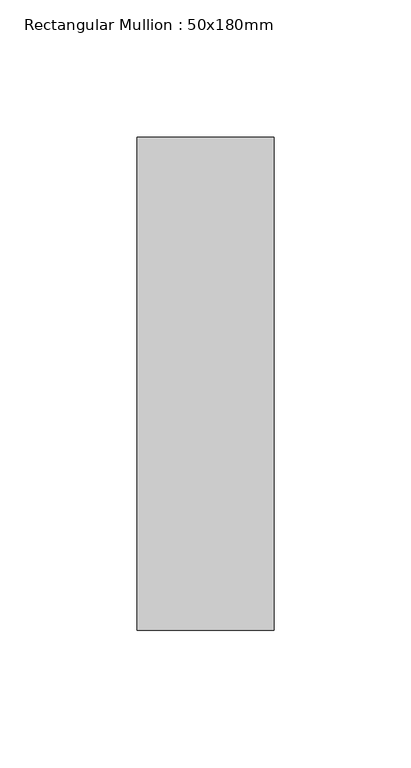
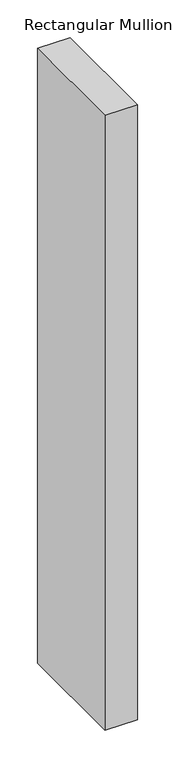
"""IFC4 building model written with IfcOpenShell, lengths in millimetres: member geometry, Rectangular Mullion : 50x180mm."""

from ifc_helpers import new_model, si_unit, frame, origin, place, context, project, spatial, polyline, outline, extrude, source, transform, mapped, element, save


def rectangular_mullion_50x180mm_f19e9633(model_context):
    return source(origin(), model_context, "Body", "SweptSolid", [
        extrude(outline(polyline([(25.0, 90.0), (25.0, -90.0), (-25.0, -90.0), (-25.0, 90.0), (25.0, 90.0)])), frame((0.0, 0.0, -1000.0), z_axis=(0.0, 0.0, 1.0), x_axis=(1.0, 0.0, 0.0)), (0.0, 0.0, 1.0), 1000.0),
    ])


if __name__ == "__main__":
    model = new_model("IFC4")
    model_context = context("Model", 3, world=origin())
    ifc_project = project(units=[si_unit("LENGTHUNIT", "METRE", prefix="MILLI")], contexts=[model_context])
    site = spatial("IfcSite", under=ifc_project)
    building = spatial("IfcBuilding", under=site)
    placement = place(None, origin())
    rectangular_mullion_50x180mm_shape = rectangular_mullion_50x180mm_f19e9633(model_context)
    element("IfcMember", 1, ObjectType="Rectangular Mullion : 50x180mm", at=placement, inside=building, context=model_context, shape_type="MappedRepresentation", body=[
        mapped(rectangular_mullion_50x180mm_shape, transform((0.0, 0.0, 0.0), x_axis=(1.0, 0.0, 0.0), y_axis=(0.0, 1.0, 0.0), z_axis=(0.0, 0.0, 1.0))),
    ])
    save(model, "model.ifc")
